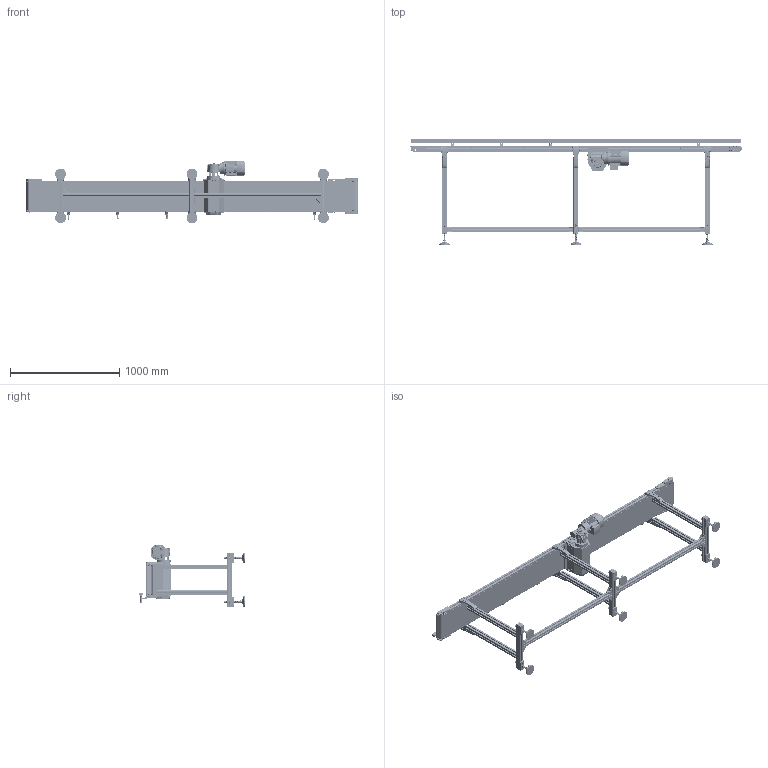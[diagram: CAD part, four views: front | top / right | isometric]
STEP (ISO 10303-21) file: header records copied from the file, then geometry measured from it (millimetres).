
FILE_DESCRIPTION (( 'STEP AP203' ), '1' );
FILE_NAME ('NASTRO_RETTILINEO_TAPPETO.step', '2026-04-24T07:55:20', ( 'Utente Windows' ), ( '' ), 'SwSTEP 2.0', 'SolidWorks 2024', '' );
FILE_SCHEMA (( 'CONFIG_CONTROL_DESIGN' ));
Length unit declared in the file: millimetre
Products named in the file (112): PIEDE; VITE_DADO_M6X12; 084.807.015_084.807.002; VITI TE UNI 5739_M6x16 UNI 5739; RULLO_TENSIONAMENTO_50-95_CENTRALE; 084.302.000 DADI ALUSIC 13x13-1_084.302.004; BLOCCO_RINVIO_50_PENNA_SX; CARTER_50-95_CENTRALE; 2010.000.068; VITI TSEI UNI 5933_M5x12 UNI 5933; 084.201.012; ANGOLARE_43; VITI TE UNI 5739 INOX_M5x12 UNI 5739 INOX; 084.810.001; VITI TSEI UNI 5933_M6x12 UNI 5933; VITI TE UNI 5739_M10x25 UNI 5739; GAMBE_D50_Default<A macchina>; VITI TE UNI 5739_M8x12 UNI 5739; BLOCCO_TRAINO_50-95_CENTRALE_49; 084.812.003; 084.201.012-1; FLANGIA_GAMBA_50; 084.802.011; SPONDA_Default<A macchina>; 084.802.020; BLOCCO_REGGITAPPETO; VITI TE UNI 5739_M6x50 UNI 5739; 084.302.000 DADI ALUSIC 13x13_084.302.015; 2010.000.069; 30UNI7435; RULLO_SUP_50_PENNA; 084.814.003-1; 084.802.064; 084.810.003; RULLO_INF_50_PENNA; BLOCCO_PERNO_50_RINVIO; 084.711.006_PER CAVA 8 PERNO ALTO 1; 084.807.016_084.807.002; 084.302.000 DADI ALUSIC 13x13_084.302.004; BLOCCO_RINVIO_50_PENNA_DX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
Assembly tree (279 placements, depth 4):
  NASTRO_RETTILINEO_TAPPETO
    TAPPETO_CENTRALE_1PENNA
    TELAIO_50_STANDARD_Default<A macchina>
    LAMIERA_1_PENNA  x2
    RULLO_50_Default<A macchina>
    BLOCCO_PERNO_50_RINVIO  x2
      084.811.004
      084.810.001
    BLOCCO_RINVIO_50_STANDARD  x2
      084.807.002_084.807.002
      084.802.017_084.802.017
      084.802.008
      084.301.000 VITI ALUSIC_084.301.003
      084.302.000 DADI ALUSIC 13x13_084.302.004
      VITI TSEI UNI 5933_M4x10 UNI 5933
      084.802.071
    RULLO_SUP_50_PENNA
    BLOCCO_RINVIO_50_PENNA_SX
      084.807.016_084.807.002
      084.809.007
      084.802.036
      VITI TCEI UNI 5931_M6x30 UNI 5931
      RONDELLE UNI 6592_5.3x10 UNI 6592  x2
      VITI TCEI UNI 5931_M6x20 UNI 5931
      084.301.000 VITI ALUSIC_084.301.036
      084.302.016
      084.301.000 VITI ALUSIC_084.301.003  x2
      VITI TE UNI 5739 INOX_M5x12 UNI 5739 INOX  x2
      12UNI7435
      08UNI7435  x3
    BLOCCO_RINVIO_50_PENNA_DX
      084.802.036
      084.807.015_084.807.002
      VITI TCEI UNI 5931_M6x30 UNI 5931
      084.827.040
      VITI TCEI UNI 5931_M6x20 UNI 5931
      084.301.000 VITI ALUSIC_084.301.036
      084.302.016
      084.301.000 VITI ALUSIC_084.301.003  x2
      08UNI7435
      12UNI7435
    PERNO_SUP_95_PENNA
    RULLO_INF_50_PENNA
    PERNO_INF_50_PENNA
    RULLO_95_Default<A macchina>
    BLOCCO_TRAINO_50-95_CENTRALE_49
      084.802.021
      084.802.004-1  x2
      084.802.003
      084.802.011
      084.302.017
      VITI TSEI UNI 5933_M8x20 UNI 5933  x4
      VITI TSEI UNI 5933_M8x16 UNI 5933  x3
      VITI TE UNI 5739_M6x50 UNI 5739  x2
      DADI ESAGONALI NORMALI UNI 5588_M6 UNI 5588  x2
      VITI TE UNI 5739_M6x16 UNI 5739  x2
      RONDELLE UNI 6592_6.4x12.5 UNI 6592  x2
      VITI TSEI UNI 5933_M6x12 UNI 5933  x4
      VITI TE UNI 5739_M10x25 UNI 5739  x4
      084.802.070
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Bounding box: 3037 x 972.1 x 571.3 mm (x, y, z)
Volume: 24052280.8 mm3; surface area: 17284580 mm2
Topology: 515 solids, 525 shells, 25674 faces, 66282 edges, 41797 vertices
Faces by surface type: plane 9846, cylinder 8561, bspline 3302, cone 2242, torus 1504, sphere 219
Entity records: 403317 total; most frequent: CARTESIAN_POINT 150446, ORIENTED_EDGE 52608, DIRECTION 45880, EDGE_CURVE 26304, VERTEX_POINT 16711, AXIS2_PLACEMENT_3D 16563, LINE 12754, VECTOR 12754
